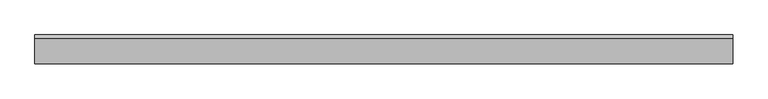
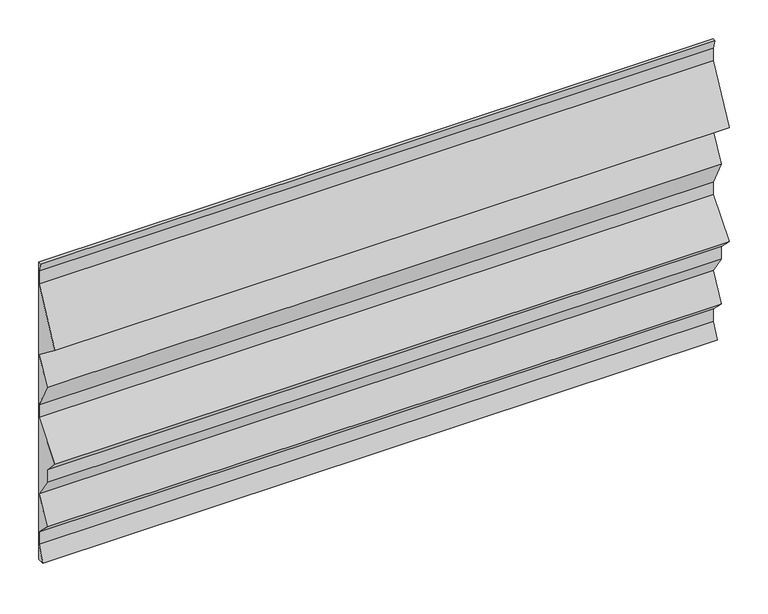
"""IFC4 building model written with IfcOpenShell, lengths in millimetres: plate geometry, ATELIERS 3S_GLACE PISSAILLAS 1000_HORIZONTAL : AZURO."""

from ifc_helpers import new_model, si_unit, frame, origin, place, context, project, spatial, polyline, outline, extrude, source, transform, mapped, element, save


def plate_c4e21b1d(model_context):
    return source(origin(), model_context, "Body", "SweptSolid", [
        extrude(outline(polyline([(-0.75, 452.4262432), (-4.7643804, 466.5380782), (0.0, 466.5380782), (0.0, 0.0), (-10.2201124, 0.0), (-0.75, 23.6752809), (-0.75, 43.2201839), (-20.9125704, 63.3827543), (-0.8654665, 103.4769621), (-20.75, 133.3037624), (-20.75, 153.2201839), (-41.009736, 173.4799199), (-0.75, 222.7980964), (-0.75, 242.3537931), (-20.8385255, 282.5308441), (-0.9507458, 322.3064035), (-40.9507458, 352.3064035), (-0.75, 432.7078951), (-0.75, 452.4262432)])), frame((-500.0, 0.0, 0.0), z_axis=(1.0, 0.0, 0.0), x_axis=(0.0, 1.0, 0.0)), (0.0, 0.0, 1.0), 1000.0),
    ])


if __name__ == "__main__":
    model = new_model("IFC4")
    model_context = context("Model", 3, world=origin())
    ifc_project = project(units=[si_unit("LENGTHUNIT", "METRE", prefix="MILLI")], contexts=[model_context])
    site = spatial("IfcSite", under=ifc_project)
    building = spatial("IfcBuilding", under=site)
    placement = place(None, origin())
    plate_shape = plate_c4e21b1d(model_context)
    element("IfcPlate", 1, ObjectType="ATELIERS 3S_GLACE PISSAILLAS 1000_HORIZONTAL : AZURO", at=placement, inside=building, context=model_context, shape_type="MappedRepresentation", body=[
        mapped(plate_shape, transform((0.0, 0.0, 0.0), x_axis=(1.0, 0.0, 0.0), y_axis=(0.0, 1.0, 0.0), z_axis=(0.0, 0.0, 1.0))),
    ])
    save(model, "model.ifc")
